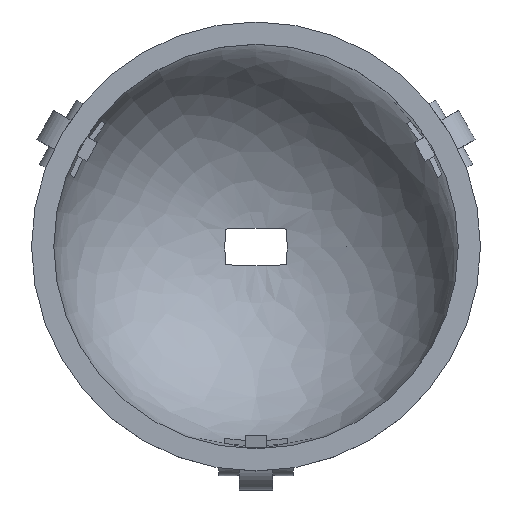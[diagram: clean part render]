
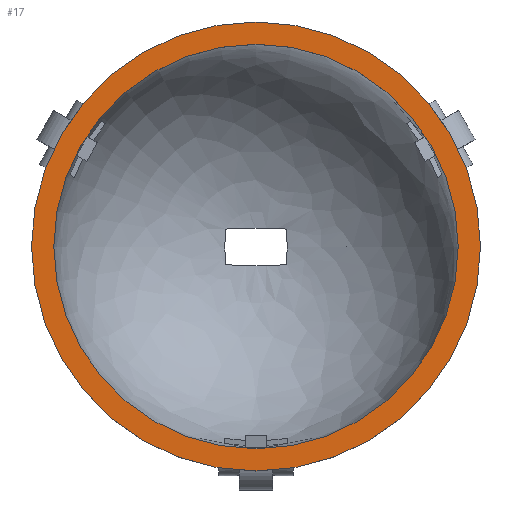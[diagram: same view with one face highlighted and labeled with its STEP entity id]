
A CAD part, top view. The second image highlights one B-rep face of the part: STEP entity #17.
In plain terms, the highlighted planar face has unit normal (0, 0, 1).
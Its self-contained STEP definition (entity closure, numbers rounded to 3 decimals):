
#17 = ADVANCED_FACE('',(#18,#54),#31,.T.);
#18 = FACE_BOUND('',#19,.F.);
#19 = EDGE_LOOP('',(#20));
#20 = ORIENTED_EDGE('',*,*,#21,.T.);
#21 = EDGE_CURVE('',#22,#22,#24,.T.);
#22 = VERTEX_POINT('',#23);
#23 = CARTESIAN_POINT('',(27.25,0.,0.));
#24 = SURFACE_CURVE('',#25,(#30,#42),.PCURVE_S1.);
#25 = CIRCLE('',#26,27.25);
#26 = AXIS2_PLACEMENT_3D('',#27,#28,#29);
#27 = CARTESIAN_POINT('',(0.,0.,0.));
#28 = DIRECTION('',(0.,0.,1.));
#29 = DIRECTION('',(1.,0.,-0.));
#30 = PCURVE('',#31,#36);
#31 = PLANE('',#32);
#32 = AXIS2_PLACEMENT_3D('',#33,#34,#35);
#33 = CARTESIAN_POINT('',(0.,0.,0.));
#34 = DIRECTION('',(0.,0.,1.));
#35 = DIRECTION('',(1.,0.,-0.));
#36 = DEFINITIONAL_REPRESENTATION('',(#37),#41);
#37 = CIRCLE('',#38,27.25);
#38 = AXIS2_PLACEMENT_2D('',#39,#40);
#39 = CARTESIAN_POINT('',(0.,0.));
#40 = DIRECTION('',(1.,-0.));
#41 = ( GEOMETRIC_REPRESENTATION_CONTEXT(2) 
PARAMETRIC_REPRESENTATION_CONTEXT() REPRESENTATION_CONTEXT('2D SPACE',''
  ) );
#42 = PCURVE('',#43,#48);
#43 = CYLINDRICAL_SURFACE('',#44,27.25);
#44 = AXIS2_PLACEMENT_3D('',#45,#46,#47);
#45 = CARTESIAN_POINT('',(0.,0.,-4.));
#46 = DIRECTION('',(0.,0.,1.));
#47 = DIRECTION('',(1.,0.,-0.));
#48 = DEFINITIONAL_REPRESENTATION('',(#49),#53);
#49 = LINE('',#50,#51);
#50 = CARTESIAN_POINT('',(0.,4.));
#51 = VECTOR('',#52,1.);
#52 = DIRECTION('',(1.,0.));
#53 = ( GEOMETRIC_REPRESENTATION_CONTEXT(2) 
PARAMETRIC_REPRESENTATION_CONTEXT() REPRESENTATION_CONTEXT('2D SPACE',''
  ) );
#54 = FACE_BOUND('',#55,.F.);
#55 = EDGE_LOOP('',(#56));
#56 = ORIENTED_EDGE('',*,*,#57,.F.);
#57 = EDGE_CURVE('',#58,#58,#60,.T.);
#58 = VERTEX_POINT('',#59);
#59 = CARTESIAN_POINT('',(30.25,0.,0.));
#60 = SURFACE_CURVE('',#61,(#66,#73),.PCURVE_S1.);
#61 = CIRCLE('',#62,30.25);
#62 = AXIS2_PLACEMENT_3D('',#63,#64,#65);
#63 = CARTESIAN_POINT('',(0.,0.,0.));
#64 = DIRECTION('',(0.,0.,1.));
#65 = DIRECTION('',(1.,0.,-0.));
#66 = PCURVE('',#31,#67);
#67 = DEFINITIONAL_REPRESENTATION('',(#68),#72);
#68 = CIRCLE('',#69,30.25);
#69 = AXIS2_PLACEMENT_2D('',#70,#71);
#70 = CARTESIAN_POINT('',(0.,0.));
#71 = DIRECTION('',(1.,-0.));
#72 = ( GEOMETRIC_REPRESENTATION_CONTEXT(2) 
PARAMETRIC_REPRESENTATION_CONTEXT() REPRESENTATION_CONTEXT('2D SPACE',''
  ) );
#73 = PCURVE('',#74,#79);
#74 = CYLINDRICAL_SURFACE('',#75,30.25);
#75 = AXIS2_PLACEMENT_3D('',#76,#77,#78);
#76 = CARTESIAN_POINT('',(0.,0.,0.));
#77 = DIRECTION('',(-0.,-0.,-1.));
#78 = DIRECTION('',(1.,0.,0.));
#79 = DEFINITIONAL_REPRESENTATION('',(#80),#84);
#80 = LINE('',#81,#82);
#81 = CARTESIAN_POINT('',(-0.,0.));
#82 = VECTOR('',#83,1.);
#83 = DIRECTION('',(-1.,0.));
#84 = ( GEOMETRIC_REPRESENTATION_CONTEXT(2) 
PARAMETRIC_REPRESENTATION_CONTEXT() REPRESENTATION_CONTEXT('2D SPACE',''
  ) );
